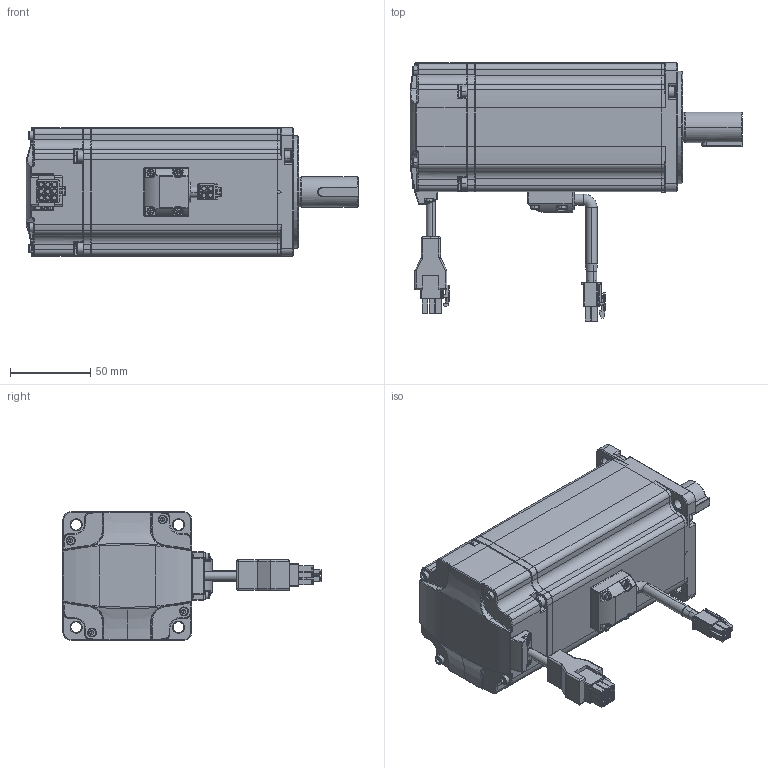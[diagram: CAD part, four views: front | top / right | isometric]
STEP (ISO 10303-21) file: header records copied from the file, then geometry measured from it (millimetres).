
FILE_DESCRIPTION (( 'STEP AP203' ), '1' );
FILE_NAME ('EM3J-10ATA241.STEP', '2023-11-16T01:19:03', ( '' ), ( '' ), 'SwSTEP 2.0', 'SolidWorks 2018', '' );
FILE_SCHEMA (( 'CONFIG_CONTROL_DESIGN' ));
Products named in the file (1): EM3J-10ATA241
Bounding box: 206.5 x 160.49 x 80 mm (x, y, z)
Volume: 396825.8 mm3; surface area: 137069 mm2
Topology: 26 solids, 26 shells, 2355 faces, 5808 edges, 3544 vertices
Faces by surface type: plane 1113, cylinder 664, cone 282, torus 150, bspline 97, sphere 49
Entity records: 71053 total; most frequent: CARTESIAN_POINT 15733, DIRECTION 11600, ORIENTED_EDGE 11470, EDGE_CURVE 5735, AXIS2_PLACEMENT_3D 4119, VERTEX_POINT 3544, LINE 3362, VECTOR 3362
